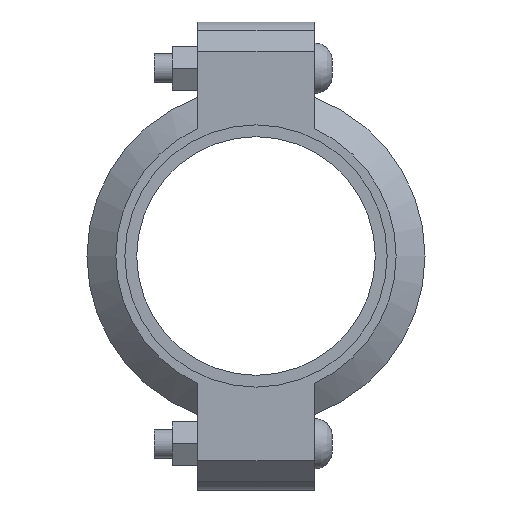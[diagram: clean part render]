
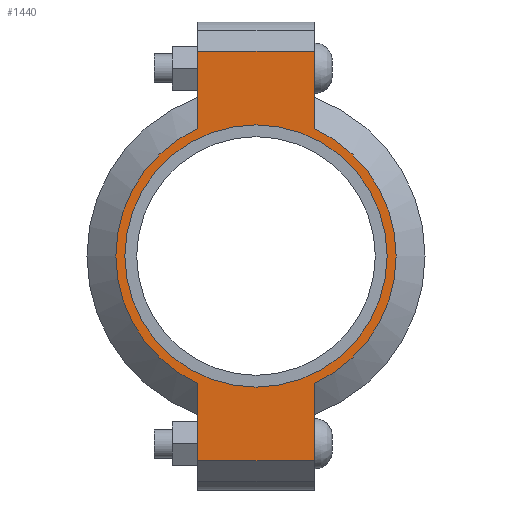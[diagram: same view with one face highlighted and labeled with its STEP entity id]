
A CAD part, left-side view. The second image highlights one B-rep face of the part: STEP entity #1440.
In plain terms, the highlighted planar face has unit normal (-1, 0, 0) as drawn and (0, 0, 1) by its records, which use the part's own axes.
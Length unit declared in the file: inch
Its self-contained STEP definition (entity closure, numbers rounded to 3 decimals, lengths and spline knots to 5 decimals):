
#120=LINE('',#2479,#211);
#128=LINE('',#2515,#219);
#135=LINE('',#2536,#226);
#144=LINE('',#2568,#235);
#145=LINE('',#2572,#236);
#146=LINE('',#2574,#237);
#211=VECTOR('',#2009,0.3937);
#219=VECTOR('',#2025,0.3937);
#226=VECTOR('',#2044,0.3937);
#235=VECTOR('',#2069,0.3937);
#236=VECTOR('',#2074,0.3937);
#237=VECTOR('',#2075,0.3937);
#289=FACE_BOUND('',#449,.T.);
#353=FACE_OUTER_BOUND('',#448,.T.);
#448=EDGE_LOOP('',(#1175,#1176,#1177,#1178,#1179,#1180,#1181,#1182));
#449=EDGE_LOOP('',(#1183));
#546=CIRCLE('',#1683,2.405);
#547=CIRCLE('',#1684,2.405);
#548=CIRCLE('',#1685,2.25);
#651=VERTEX_POINT('',#2476);
#652=VERTEX_POINT('',#2478);
#663=VERTEX_POINT('',#2510);
#664=VERTEX_POINT('',#2514);
#671=VERTEX_POINT('',#2533);
#672=VERTEX_POINT('',#2535);
#682=VERTEX_POINT('',#2571);
#683=VERTEX_POINT('',#2573);
#684=VERTEX_POINT('',#2576);
#815=EDGE_CURVE('',#652,#651,#120,.T.);
#829=EDGE_CURVE('',#664,#663,#128,.T.);
#839=EDGE_CURVE('',#672,#671,#135,.T.);
#854=EDGE_CURVE('',#664,#651,#144,.T.);
#855=EDGE_CURVE('',#663,#672,#546,.T.);
#856=EDGE_CURVE('',#682,#671,#145,.T.);
#857=EDGE_CURVE('',#682,#683,#146,.T.);
#858=EDGE_CURVE('',#683,#652,#547,.T.);
#859=EDGE_CURVE('',#684,#684,#548,.T.);
#1175=ORIENTED_EDGE('',*,*,#854,.F.);
#1176=ORIENTED_EDGE('',*,*,#829,.T.);
#1177=ORIENTED_EDGE('',*,*,#855,.T.);
#1178=ORIENTED_EDGE('',*,*,#839,.T.);
#1179=ORIENTED_EDGE('',*,*,#856,.F.);
#1180=ORIENTED_EDGE('',*,*,#857,.T.);
#1181=ORIENTED_EDGE('',*,*,#858,.T.);
#1182=ORIENTED_EDGE('',*,*,#815,.T.);
#1183=ORIENTED_EDGE('',*,*,#859,.T.);
#1294=PLANE('',#1682);
#1440=ADVANCED_FACE('',(#353,#289),#1294,.T.);
#1682=AXIS2_PLACEMENT_3D('',#2569,#2070,#2071);
#1683=AXIS2_PLACEMENT_3D('',#2570,#2072,#2073);
#1684=AXIS2_PLACEMENT_3D('',#2575,#2076,#2077);
#1685=AXIS2_PLACEMENT_3D('',#2577,#2078,#2079);
#2009=DIRECTION('',(-1.,0.,0.));
#2025=DIRECTION('',(1.,0.,0.));
#2044=DIRECTION('',(1.,0.,0.));
#2069=DIRECTION('',(0.,1.,0.));
#2070=DIRECTION('center_axis',(0.,0.,1.));
#2071=DIRECTION('ref_axis',(1.,0.,0.));
#2072=DIRECTION('center_axis',(0.,0.,1.));
#2073=DIRECTION('ref_axis',(-1.,0.,0.));
#2074=DIRECTION('',(0.,-1.,0.));
#2075=DIRECTION('',(-1.,0.,0.));
#2076=DIRECTION('center_axis',(0.,0.,1.));
#2077=DIRECTION('ref_axis',(-1.,0.,0.));
#2078=DIRECTION('center_axis',(0.,0.,-1.));
#2079=DIRECTION('ref_axis',(-1.,0.,0.));
#2476=CARTESIAN_POINT('',(-3.515,1.,1.065));
#2478=CARTESIAN_POINT('',(-2.18724,1.,1.065));
#2479=CARTESIAN_POINT('',(-4.015,1.,1.065));
#2510=CARTESIAN_POINT('',(-2.18724,-1.,1.065));
#2514=CARTESIAN_POINT('',(-3.515,-1.,1.065));
#2515=CARTESIAN_POINT('',(4.015,-1.,1.065));
#2533=CARTESIAN_POINT('',(3.515,-1.,1.065));
#2535=CARTESIAN_POINT('',(2.18724,-1.,1.065));
#2536=CARTESIAN_POINT('',(4.015,-1.,1.065));
#2568=CARTESIAN_POINT('',(-3.515,0.5,1.065));
#2569=CARTESIAN_POINT('Origin',(0.,0.,1.065));
#2570=CARTESIAN_POINT('Origin',(0.,0.,1.065));
#2571=CARTESIAN_POINT('',(3.515,1.,1.065));
#2572=CARTESIAN_POINT('',(3.515,-0.5,1.065));
#2573=CARTESIAN_POINT('',(2.18724,1.,1.065));
#2574=CARTESIAN_POINT('',(-4.015,1.,1.065));
#2575=CARTESIAN_POINT('Origin',(0.,0.,1.065));
#2576=CARTESIAN_POINT('',(2.25,0.,1.065));
#2577=CARTESIAN_POINT('Origin',(0.,0.,1.065));
